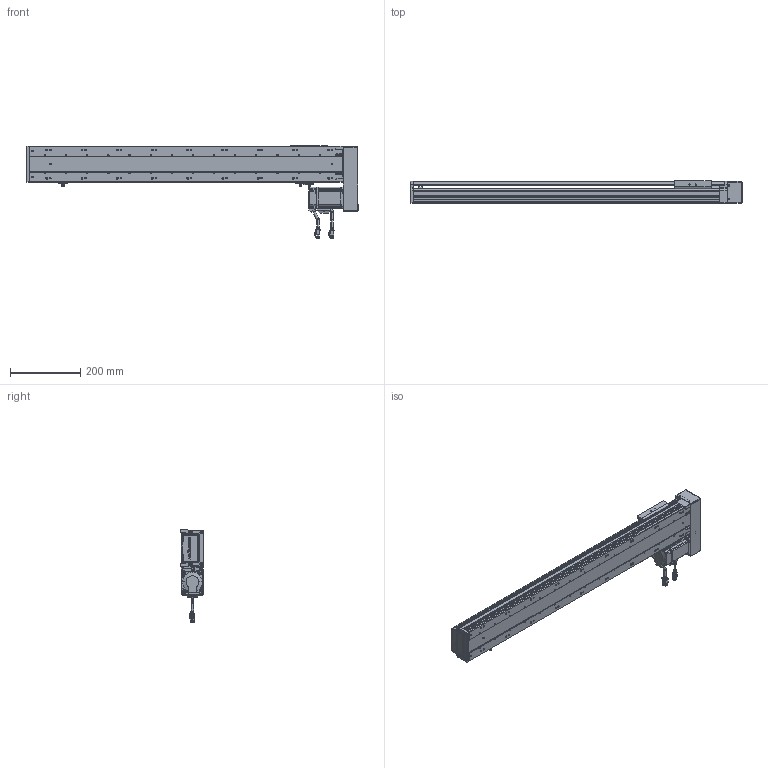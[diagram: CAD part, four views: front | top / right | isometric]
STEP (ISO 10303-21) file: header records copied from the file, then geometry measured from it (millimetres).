
FILE_DESCRIPTION (( 'STEP AP203' ), '1' );
FILE_NAME ('RY100S-L1620-300-RK(15双轨).SLDASM_700.step', '2021-02-20T08:48:24', ( '盈信电脑' ), ( '东莞市道滘镇水果街19号' ), 'SwSTEP 2.0', 'SolidWorks 2012', '' );
FILE_SCHEMA (( 'CONFIG_CONTROL_DESIGN' ));
Length unit declared in the file: millimetre
Products named in the file (25): 3M30喘15遵; RY100S-L1620-300-RK(15邧寢).SLDASM_700; RY100S铝滑块（15双轨单滑块）底组装导轨; 蚾饜极1^RY100S-L1620-300-RK(15邧寢); 6; 5; 7; 侂狟200W萇儂; 2; 4; 1; 3; RY100S转折电机安装板（15双轨）; 肮祭湍3M遵15笚酗282; RY100S左右折电机罩（15双轨）; 滅袉蝶18-24; RY80肮祭湍芢雄輸; RY80肮祭湍覃踡啣; RY100綴裔啣; 覜茼ん672; RY100俋离覜茼え; 滅袉蝶18-10; RY100S转折电机端支撑座(15双轨); RY100S-300-LK转折型材上盖(15双轨)_700; RY100S-350-LK型材底座(低组15双轨)_700
Assembly tree (27 placements, depth 4):
  RY100S-L1620-300-RK(15邧寢).SLDASM_700
    RY100S-350-LK型材底座(低组15双轨)_700
    RY100S-300-LK转折型材上盖(15双轨)_700
    覜茼ん672  x3
    滅袉蝶18-10
    RY100俋离覜茼え
    RY100S转折电机端支撑座(15双轨)
    滅袉蝶18-24
    RY100綴裔啣
    蚾饜极1^RY100S-L1620-300-RK(15邧寢)
      RY80肮祭湍覃踡啣
      RY80肮祭湍芢雄輸  x2
      RY100S左右折电机罩（15双轨）
      RY100S转折电机安装板（15双轨）
      肮祭湍3M遵15笚酗282
      侂狟200W萇儂
        1
        2
        3
        4
        5
        6
        7
      3M30喘15遵
    RY100S铝滑块（15双轨单滑块）底组装导轨
Bounding box: 942.5 x 65 x 263.3 mm (x, y, z)
Volume: 2249044.6 mm3; surface area: 884006.1 mm2
Topology: 25 solids, 25 shells, 3308 faces, 8925 edges, 5756 vertices
Faces by surface type: plane 1728, cylinder 1297, cone 169, bspline 114
Entity records: 107954 total; most frequent: CARTESIAN_POINT 27061, ORIENTED_EDGE 16554, DIRECTION 15976, EDGE_CURVE 8277, AXIS2_PLACEMENT_3D 5467, VERTEX_POINT 5392, LINE 5042, VECTOR 5042
